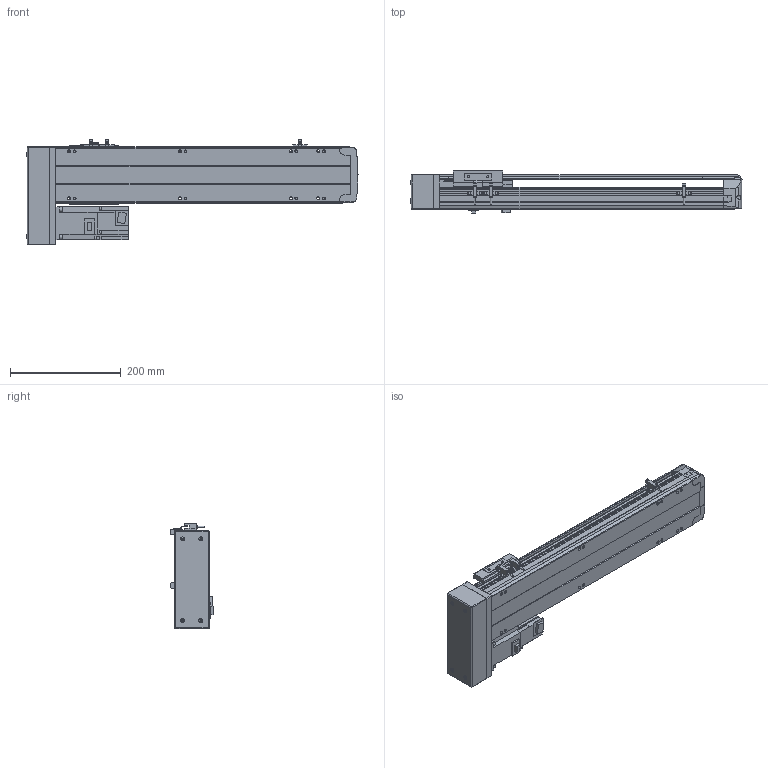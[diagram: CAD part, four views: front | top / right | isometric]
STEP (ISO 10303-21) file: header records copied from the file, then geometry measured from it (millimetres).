
FILE_DESCRIPTION( ( 'STEP AP214' ), '1' );
FILE_NAME( 'x:/temp/worker_27/temp/exporttempdir_6708_95_Ki9Cs/format_0/PSS120-L10-S350-BR-T40-C1-N(0).stp', '2022-06-06T00:30:19', ( 'License CC BY-ND 4.0' ), ( 'CADENAS' ), ' ', 'PARTsolutions', ' ' );
FILE_SCHEMA( ( 'AUTOMOTIVE_DESIGN { 1 0 10303 214 1 1 1 1 }' ) );
Length unit declared in the file: millimetre
Products named in the file (8): PSS120-L10-S350-BR-T40-C1-N(0); _PSS120-S350-BR-C1-N_body; _PSS120-N_Q; _PSS120-BR-C1-N_sl; _PSS120-N_sensor; _PSS120BR-N_h; _T40-p1; _PSS120-S350-BR-N_S
Assembly tree (9 placements, depth 2):
  PSS120-L10-S350-BR-T40-C1-N(0)
    _PSS120-S350-BR-C1-N_body
    _PSS120-N_Q
    _PSS120-BR-C1-N_sl
    _PSS120-N_sensor  x3
    _PSS120BR-N_h
    _T40-p1
    _PSS120-S350-BR-N_S
Bounding box: 599.35 x 76.8 x 191.2 mm (x, y, z)
Volume: 2752425.4 mm3; surface area: 463016.9 mm2
Topology: 9 solids, 9 shells, 816 faces, 2189 edges, 1448 vertices
Faces by surface type: plane 583, cylinder 213, cone 16, sphere 4
Full cylindrical faces by diameter (mm): 2.8 x3, 4 x4, 4.134 x12, 4.4 x2, 4.5 x4, 4.6 x3, 5 x6, 5.5 x15, 7 x2, 7.4 x4, 8 x4, 8.5 x12, 14 x1, 28 x1, 32 x2, 50 x1
Entity records: 27901 total; most frequent: CARTESIAN_POINT 4275, DIRECTION 3655, ORIENTED_EDGE 3586, EDGE_CURVE 1793, LINE 1303, VECTOR 1303, VERTEX_POINT 1236, AXIS2_PLACEMENT_3D 1176
